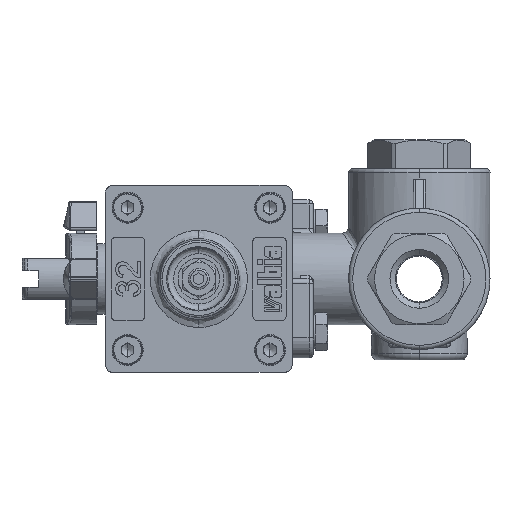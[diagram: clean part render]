
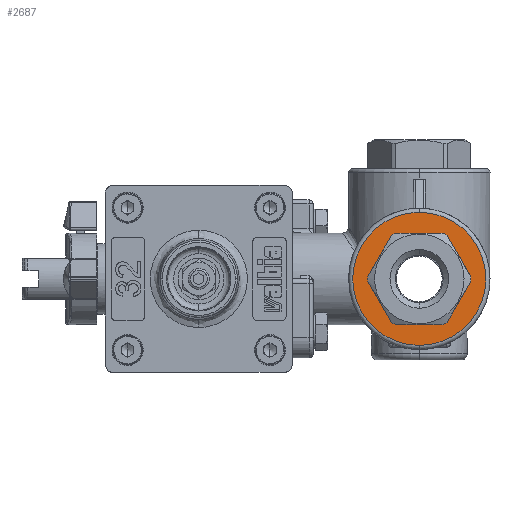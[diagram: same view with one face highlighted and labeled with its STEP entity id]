
A CAD part, left-side view. The second image highlights one B-rep face of the part: STEP entity #2687.
In plain terms, the highlighted planar face has unit normal (-1, 0, 0).
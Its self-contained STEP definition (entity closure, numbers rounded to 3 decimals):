
#1137 = AXIS2_PLACEMENT_3D ( 'NONE', #14415, #52447, #19913 ) ;
#2082 = AXIS2_PLACEMENT_3D ( 'NONE', #40083, #7469, #45483 ) ;
#2498 = CARTESIAN_POINT ( 'NONE',  ( -26.5, 0., 0. ) ) ;
#2687 = ADVANCED_FACE ( 'NONE', ( #17491, #46439 ), #41330, .F. ) ;
#3723 = EDGE_CURVE ( 'NONE', #13250, #6371, #18271, .T. ) ;
#4096 = DIRECTION ( 'NONE',  ( 0., 0., -1. ) ) ;
#4473 = CARTESIAN_POINT ( 'NONE',  ( -26.5, 0., 0. ) ) ;
#4934 = CARTESIAN_POINT ( 'NONE',  ( -26.5, 0., 0. ) ) ;
#5369 = CIRCLE ( 'NONE', #6387, 16. ) ;
#6371 = VERTEX_POINT ( 'NONE', #60250 ) ;
#6387 = AXIS2_PLACEMENT_3D ( 'NONE', #51882, #19318, #57352 ) ;
#7244 = DIRECTION ( 'NONE',  ( 0., -0.5, -0.866 ) ) ;
#7469 = DIRECTION ( 'NONE',  ( 1., 0., 0. ) ) ;
#7903 = DIRECTION ( 'NONE',  ( 0., 0., 1. ) ) ;
#7996 = CARTESIAN_POINT ( 'NONE',  ( -26.5, 0., 0. ) ) ;
#8736 = CIRCLE ( 'NONE', #20578, 16. ) ;
#9705 = EDGE_CURVE ( 'NONE', #23080, #22406, #68517, .T. ) ;
#9841 = VERTEX_POINT ( 'NONE', #53363 ) ;
#9854 = EDGE_CURVE ( 'NONE', #63761, #6371, #65055, .T. ) ;
#9861 = DIRECTION ( 'NONE',  ( 0., 0., -1. ) ) ;
#10070 = LINE ( 'NONE', #63493, #39069 ) ;
#10330 = DIRECTION ( 'NONE',  ( 0., 0., -1. ) ) ;
#10705 = CIRCLE ( 'NONE', #2082, 12.4 ) ;
#11022 = LINE ( 'NONE', #19758, #67094 ) ;
#12403 = VECTOR ( 'NONE', #46748, 1000. ) ;
#12940 = AXIS2_PLACEMENT_3D ( 'NONE', #16260, #54329, #21771 ) ;
#13020 = CARTESIAN_POINT ( 'NONE',  ( -26.5, 5.724, 11. ) ) ;
#13250 = VERTEX_POINT ( 'NONE', #38292 ) ;
#13430 = DIRECTION ( 'NONE',  ( 0., 0., -1. ) ) ;
#14415 = CARTESIAN_POINT ( 'NONE',  ( -26.5, -16.192, 16.192 ) ) ;
#15916 = CARTESIAN_POINT ( 'NONE',  ( -26.5, 0., -11. ) ) ;
#16260 = CARTESIAN_POINT ( 'NONE',  ( -26.5, 0., 0. ) ) ;
#16374 = AXIS2_PLACEMENT_3D ( 'NONE', #4473, #42448, #9861 ) ;
#16479 = CARTESIAN_POINT ( 'NONE',  ( -26.5, 0., -16. ) ) ;
#17491 = FACE_BOUND ( 'NONE', #69158, .T. ) ;
#18271 = LINE ( 'NONE', #29674, #61626 ) ;
#19318 = DIRECTION ( 'NONE',  ( 1., 0., 0. ) ) ;
#19758 = CARTESIAN_POINT ( 'NONE',  ( -26.5, -6.664, 10.457 ) ) ;
#19913 = DIRECTION ( 'NONE',  ( 0., 0., -1. ) ) ;
#19918 = ORIENTED_EDGE ( 'NONE', *, *, #44164, .T. ) ;
#20578 = AXIS2_PLACEMENT_3D ( 'NONE', #2498, #40508, #7903 ) ;
#20772 = ORIENTED_EDGE ( 'NONE', *, *, #57257, .F. ) ;
#21337 = CIRCLE ( 'NONE', #46996, 12.4 ) ;
#21444 = DIRECTION ( 'NONE',  ( 0., -1., 0. ) ) ;
#21771 = DIRECTION ( 'NONE',  ( 0., 0., -1. ) ) ;
#22406 = VERTEX_POINT ( 'NONE', #54499 ) ;
#22715 = EDGE_CURVE ( 'NONE', #63761, #29157, #11022, .T. ) ;
#23080 = VERTEX_POINT ( 'NONE', #34231 ) ;
#27728 = LINE ( 'NONE', #15916, #56601 ) ;
#29040 = AXIS2_PLACEMENT_3D ( 'NONE', #7996, #46021, #13430 ) ;
#29157 = VERTEX_POINT ( 'NONE', #65550 ) ;
#29674 = CARTESIAN_POINT ( 'NONE',  ( -26.5, -12.388, -0.543 ) ) ;
#30706 = VECTOR ( 'NONE', #7244, 1000. ) ;
#31563 = CARTESIAN_POINT ( 'NONE',  ( -26.5, -5.724, -11. ) ) ;
#31828 = VERTEX_POINT ( 'NONE', #49669 ) ;
#32609 = EDGE_CURVE ( 'NONE', #9841, #29157, #51964, .T. ) ;
#32747 = ORIENTED_EDGE ( 'NONE', *, *, #22715, .F. ) ;
#34231 = CARTESIAN_POINT ( 'NONE',  ( -26.5, 6.664, 10.457 ) ) ;
#34862 = EDGE_CURVE ( 'NONE', #31828, #39782, #21337, .T. ) ;
#35773 = AXIS2_PLACEMENT_3D ( 'NONE', #4934, #42919, #10330 ) ;
#35832 = VERTEX_POINT ( 'NONE', #13020 ) ;
#36173 = VERTEX_POINT ( 'NONE', #54812 ) ;
#36544 = EDGE_CURVE ( 'NONE', #9841, #35832, #10070, .T. ) ;
#36665 = DIRECTION ( 'NONE',  ( 1., 0., 0. ) ) ;
#37784 = EDGE_CURVE ( 'NONE', #31828, #42115, #27728, .T. ) ;
#38292 = CARTESIAN_POINT ( 'NONE',  ( -26.5, -6.664, -10.457 ) ) ;
#39069 = VECTOR ( 'NONE', #52601, 1000. ) ;
#39782 = VERTEX_POINT ( 'NONE', #62134 ) ;
#40083 = CARTESIAN_POINT ( 'NONE',  ( -26.5, 0., 0. ) ) ;
#40506 = CIRCLE ( 'NONE', #12940, 12.4 ) ;
#40508 = DIRECTION ( 'NONE',  ( 1., 0., 0. ) ) ;
#41330 = PLANE ( 'NONE',  #1137 ) ;
#41536 = CARTESIAN_POINT ( 'NONE',  ( -26.5, 12.388, 0.543 ) ) ;
#41860 = ORIENTED_EDGE ( 'NONE', *, *, #46393, .T. ) ;
#42115 = VERTEX_POINT ( 'NONE', #31563 ) ;
#42399 = ORIENTED_EDGE ( 'NONE', *, *, #32609, .T. ) ;
#42448 = DIRECTION ( 'NONE',  ( 1., 0., 0. ) ) ;
#42919 = DIRECTION ( 'NONE',  ( 1., 0., 0. ) ) ;
#44164 = EDGE_CURVE ( 'NONE', #36173, #22406, #40506, .T. ) ;
#45483 = DIRECTION ( 'NONE',  ( 0., 0., -1. ) ) ;
#45759 = ORIENTED_EDGE ( 'NONE', *, *, #37784, .F. ) ;
#46021 = DIRECTION ( 'NONE',  ( 1., 0., 0. ) ) ;
#46287 = ORIENTED_EDGE ( 'NONE', *, *, #36544, .F. ) ;
#46393 = EDGE_CURVE ( 'NONE', #13250, #42115, #62937, .T. ) ;
#46439 = FACE_OUTER_BOUND ( 'NONE', #68334, .T. ) ;
#46748 = DIRECTION ( 'NONE',  ( 0., 0.5, -0.866 ) ) ;
#46996 = AXIS2_PLACEMENT_3D ( 'NONE', #69147, #36665, #4096 ) ;
#49173 = CARTESIAN_POINT ( 'NONE',  ( -26.5, -12.388, 0.543 ) ) ;
#49240 = VERTEX_POINT ( 'NONE', #61106 ) ;
#49669 = CARTESIAN_POINT ( 'NONE',  ( -26.5, 5.724, -11. ) ) ;
#50955 = CARTESIAN_POINT ( 'NONE',  ( -26.5, 6.664, -10.457 ) ) ;
#51882 = CARTESIAN_POINT ( 'NONE',  ( -26.5, 0., 0. ) ) ;
#51964 = CIRCLE ( 'NONE', #16374, 12.4 ) ;
#52447 = DIRECTION ( 'NONE',  ( 1., 0., 0. ) ) ;
#52601 = DIRECTION ( 'NONE',  ( 0., 1., 0. ) ) ;
#53363 = CARTESIAN_POINT ( 'NONE',  ( -26.5, -5.724, 11. ) ) ;
#54329 = DIRECTION ( 'NONE',  ( 1., 0., 0. ) ) ;
#54499 = CARTESIAN_POINT ( 'NONE',  ( -26.5, 12.388, 0.543 ) ) ;
#54812 = CARTESIAN_POINT ( 'NONE',  ( -26.5, 12.388, -0.543 ) ) ;
#56601 = VECTOR ( 'NONE', #21444, 1000. ) ;
#57257 = EDGE_CURVE ( 'NONE', #69373, #49240, #5369, .T. ) ;
#57352 = DIRECTION ( 'NONE',  ( 0., 0., 1. ) ) ;
#58432 = ORIENTED_EDGE ( 'NONE', *, *, #64409, .F. ) ;
#59622 = LINE ( 'NONE', #50955, #30706 ) ;
#60250 = CARTESIAN_POINT ( 'NONE',  ( -26.5, -12.388, -0.543 ) ) ;
#60541 = EDGE_CURVE ( 'NONE', #23080, #35832, #10705, .T. ) ;
#61106 = CARTESIAN_POINT ( 'NONE',  ( -26.5, 0., 16. ) ) ;
#61626 = VECTOR ( 'NONE', #62197, 1000. ) ;
#62134 = CARTESIAN_POINT ( 'NONE',  ( -26.5, 6.664, -10.457 ) ) ;
#62197 = DIRECTION ( 'NONE',  ( 0., -0.5, 0.866 ) ) ;
#62937 = CIRCLE ( 'NONE', #29040, 12.4 ) ;
#63007 = ORIENTED_EDGE ( 'NONE', *, *, #9705, .F. ) ;
#63015 = ORIENTED_EDGE ( 'NONE', *, *, #3723, .F. ) ;
#63493 = CARTESIAN_POINT ( 'NONE',  ( -26.5, 0., 11. ) ) ;
#63519 = ORIENTED_EDGE ( 'NONE', *, *, #34862, .T. ) ;
#63761 = VERTEX_POINT ( 'NONE', #49173 ) ;
#64409 = EDGE_CURVE ( 'NONE', #36173, #39782, #59622, .T. ) ;
#65055 = CIRCLE ( 'NONE', #35773, 12.4 ) ;
#65196 = EDGE_CURVE ( 'NONE', #49240, #69373, #8736, .T. ) ;
#65424 = ORIENTED_EDGE ( 'NONE', *, *, #65196, .F. ) ;
#65550 = CARTESIAN_POINT ( 'NONE',  ( -26.5, -6.664, 10.457 ) ) ;
#66738 = ORIENTED_EDGE ( 'NONE', *, *, #9854, .T. ) ;
#67094 = VECTOR ( 'NONE', #68670, 1000. ) ;
#68334 = EDGE_LOOP ( 'NONE', ( #65424, #20772 ) ) ;
#68517 = LINE ( 'NONE', #41536, #12403 ) ;
#68622 = ORIENTED_EDGE ( 'NONE', *, *, #60541, .T. ) ;
#68670 = DIRECTION ( 'NONE',  ( 0., 0.5, 0.866 ) ) ;
#69147 = CARTESIAN_POINT ( 'NONE',  ( -26.5, 0., 0. ) ) ;
#69158 = EDGE_LOOP ( 'NONE', ( #63015, #41860, #45759, #63519, #58432, #19918, #63007, #68622, #46287, #42399, #32747, #66738 ) ) ;
#69373 = VERTEX_POINT ( 'NONE', #16479 ) ;
